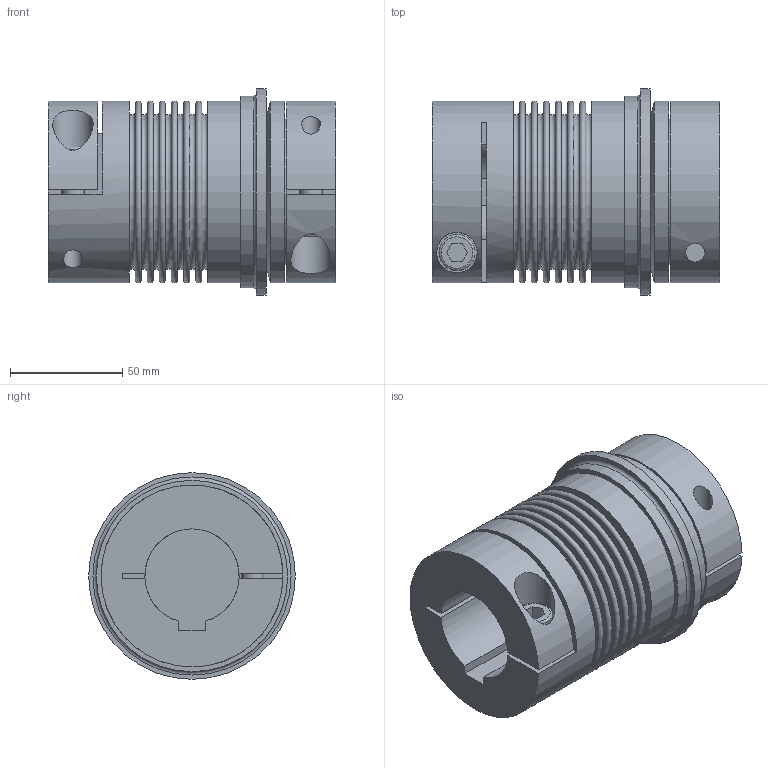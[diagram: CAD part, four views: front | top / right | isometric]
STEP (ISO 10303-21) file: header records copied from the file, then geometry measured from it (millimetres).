
FILE_DESCRIPTION(/* description */ ('STEP AP214'),/* implementation_level */ '2;1');
FILE_NAME(/* name */ 'C:\Diequa Files\DieQua Coupling\TB2\STP\TB2.150.128.WDG.#.#.stp',/* time_stamp */ '2019-04-26T10:41:04-05:00',/* author */ ('DiequaCAD'),/* organization */ (''),/* preprocessor_version */ 'ST-DEVELOPER v18',/* originating_system */ 'Autodesk Inventor 2020',/* authorisation */ ' ');
FILE_SCHEMA (('AUTOMOTIVE_DESIGN { 1 0 10303 214 3 1 1 }'));
Length unit declared in the file: millimetre
Products named in the file (1): TB2.150.128.WDG.#.#
Bounding box: 128 x 92 x 92 mm (x, y, z)
Volume: 525284.6 mm3; surface area: 88822.3 mm2
Topology: 1 solids, 1 shells, 98 faces, 232 edges, 164 vertices
Faces by surface type: plane 61, cylinder 20, torus 16, cone 1
Full cylindrical faces by diameter (mm): 8.5 x2, 10 x2, 11 x2, 16 x2, 18 x2, 65 x1, 81 x3, 85.2 x1, 92 x1
Entity records: 3121 total; most frequent: CARTESIAN_POINT 647, DIRECTION 547, ORIENTED_EDGE 464, EDGE_CURVE 232, AXIS2_PLACEMENT_3D 222, VERTEX_POINT 164, EDGE_LOOP 130, CIRCLE 123
